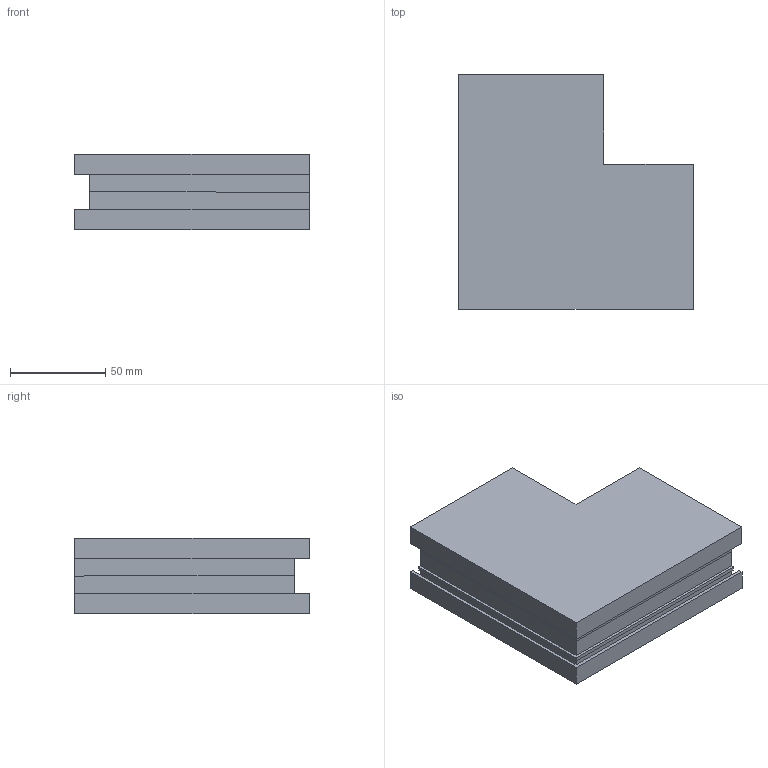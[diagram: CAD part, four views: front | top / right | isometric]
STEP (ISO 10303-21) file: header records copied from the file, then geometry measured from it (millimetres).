
FILE_DESCRIPTION(/* description */ (''),/* implementation_level */ '2;1');
FILE_NAME(/* name */ 'C:\Users\Franco Sartori E\Documents\FARO\DUPLICADO\Modelos\01_Digitalizados\PRIORIZACION 2D\1_NESO\03_Publicación\5020211202.stp',/* time_stamp */ '2021-01-21T08:31:02+01:00',/* author */ ('Franco Sartori E'),/* organization */ (''),/* preprocessor_version */ 'ST-DEVELOPER v18.1',/* originating_system */ 'AutoCAD Mechanical',/* authorisation */ '');
FILE_SCHEMA (('AUTOMOTIVE_DESIGN { 1 0 10303 214 3 1 1 }'));
Length unit declared in the file: millimetre
Products named in the file (2): Product; 5020211202_ 5020211202D - LAMP-511846-Export
Assembly tree (1 placements, depth 2):
  Product
    5020211202_ 5020211202D - LAMP-511846-Export
Bounding box: 123 x 123 x 39.4 mm (x, y, z)
Volume: 103906.9 mm3; surface area: 100261.4 mm2
Topology: 5 solids, 5 shells, 190 faces, 532 edges, 352 vertices
Faces by surface type: plane 174, cylinder 16
Entity records: 6074 total; most frequent: CARTESIAN_POINT 1077, ORIENTED_EDGE 1064, DIRECTION 950, EDGE_CURVE 532, LINE 500, VECTOR 500, VERTEX_POINT 352, AXIS2_PLACEMENT_3D 225
